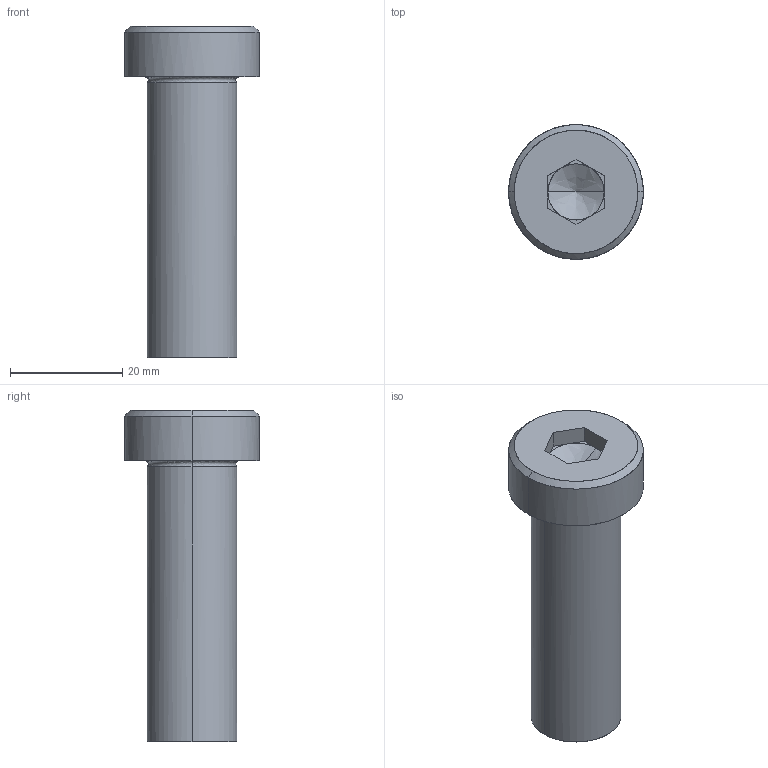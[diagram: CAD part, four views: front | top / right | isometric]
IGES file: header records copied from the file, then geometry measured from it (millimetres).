
Global section: file name: E:\UnigraphicsGraphicData\MISUMI_PRESS-PARTS\IGES\3d_sbtcn16-50_05128_r00.igs; native system: NX V5.0; preprocessor: UGS NX IGES V5.0; author: MISUMI; date: 20110105.162456; units: millimetre
Bounding box: 24 x 24 x 59 mm (x, y, z)
Surface area: 4859.8 mm2 (no closed solid volume)
Topology: 0 solids, 0 shells, 34 faces, 186 edges, 182 vertices
Faces by surface type: bspline 34
